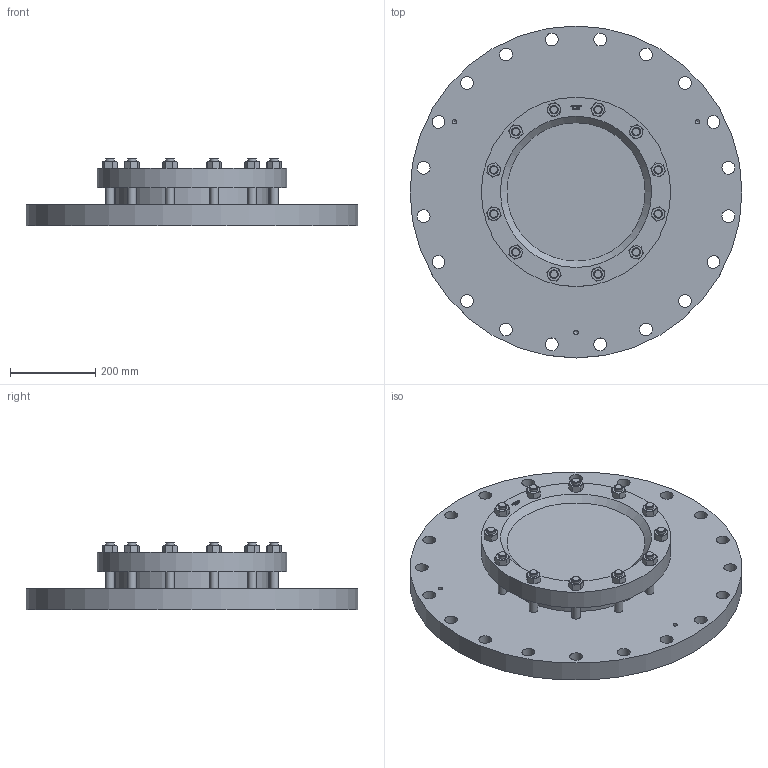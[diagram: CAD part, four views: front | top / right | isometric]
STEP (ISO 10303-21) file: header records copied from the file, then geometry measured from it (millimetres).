
FILE_DESCRIPTION(/* description */ (''),/* implementation_level */ '2;1');
FILE_NAME(/* name */ 'W:\Konstruktion_ACI\325\_STEP\325-600-10.stp',/* time_stamp */ '2022-03-02T17:22:11+01:00',/* author */ ('koslowksi'),/* organization */ (''),/* preprocessor_version */ 'ST-DEVELOPER v16.1',/* originating_system */ 'Autodesk Inventor 2016',/* authorisation */ '');
FILE_SCHEMA (('AUTOMOTIVE_DESIGN { 1 0 10303 214 3 1 1 }'));
Length unit declared in the file: millimetre
Products named in the file (1): 325-600-10
Bounding box: 780 x 780 x 159 mm (x, y, z)
Volume: 32828294.3 mm3; surface area: 1430122.7 mm2
Topology: 1 solids, 3 shells, 557 faces, 1388 edges, 883 vertices
Faces by surface type: plane 235, cone 160, bspline 108, cylinder 54
Full cylindrical faces by diameter (mm): 10.106 x3, 20 x24, 30 x20, 356 x2, 358 x2, 359 x1, 445 x1, 780 x1
Entity records: 16726 total; most frequent: CARTESIAN_POINT 4669, ORIENTED_EDGE 2566, DIRECTION 1945, EDGE_CURVE 1283, VERTEX_POINT 848, EDGE_LOOP 741, AXIS2_PLACEMENT_3D 716, FACE_OUTER_BOUND 557
